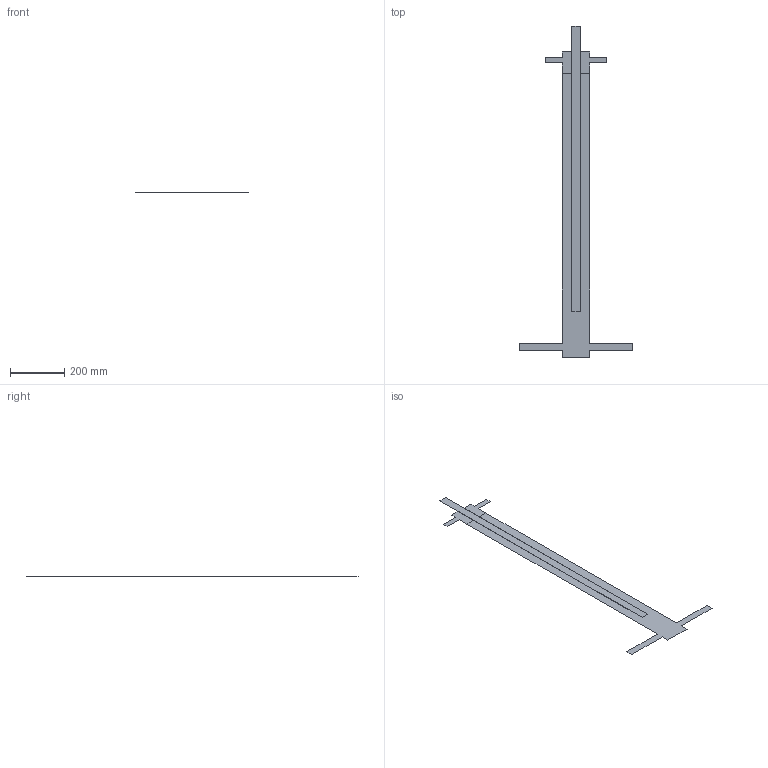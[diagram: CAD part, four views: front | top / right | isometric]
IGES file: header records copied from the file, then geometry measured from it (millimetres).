
Start section: ACIS data in IGES format
Global section: file name: Unknown; native system: ACIS; preprocessor: *IGES writer V5.2; author: Valeri Kolesnik; organization: PlasmaVenture Ltd.; date: 20070421.193516; units: metre
Bounding box: 420 x 1225.69 x 0 mm (x, y, z)
Surface area: 126723.9 mm2 (no closed solid volume)
Topology: 0 solids, 0 shells, 4 faces, 36 edges, 36 vertices
Faces by surface type: bspline 4
